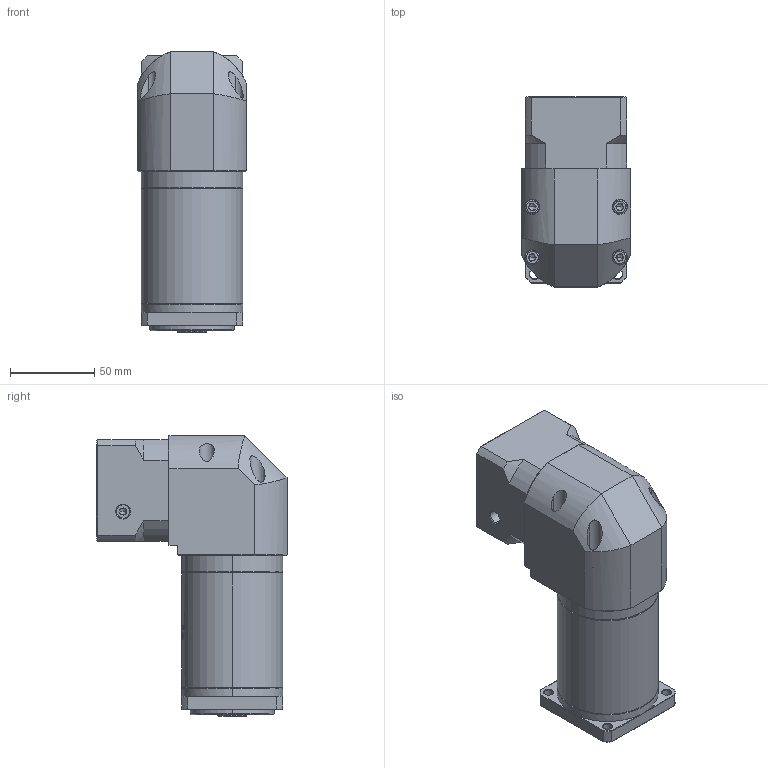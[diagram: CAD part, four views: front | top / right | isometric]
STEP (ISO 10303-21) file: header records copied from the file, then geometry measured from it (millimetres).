
FILE_DESCRIPTION (( 'STEP AP214' ), '1' );
FILE_NAME ('ZFR060-K10-L3-P2-14-50-70-M4.step', '2023-08-17T03:39:31', ( '' ), ( '' ), 'SwSTEP 2.0', 'SolidWorks 2016', '' );
FILE_SCHEMA (( 'AUTOMOTIVE_DESIGN' ));
Length unit declared in the file: millimetre
Products named in the file (1): ZFR060-K10-L3-P2-14-50-70-M4
Bounding box: 65 x 112.7 x 166.5 mm (x, y, z)
Volume: 628913.9 mm3; surface area: 83710.4 mm2
Topology: 5 solids, 6 shells, 1849 faces, 4931 edges, 3178 vertices
Faces by surface type: plane 840, bspline 359, cylinder 356, cone 282, torus 12
Entity records: 98008 total; most frequent: CARTESIAN_POINT 35563, ORIENTED_EDGE 9822, DIRECTION 7338, EDGE_CURVE 4911, VERTEX_POINT 3178, LINE 2534, VECTOR 2534, AXIS2_PLACEMENT_3D 2402
